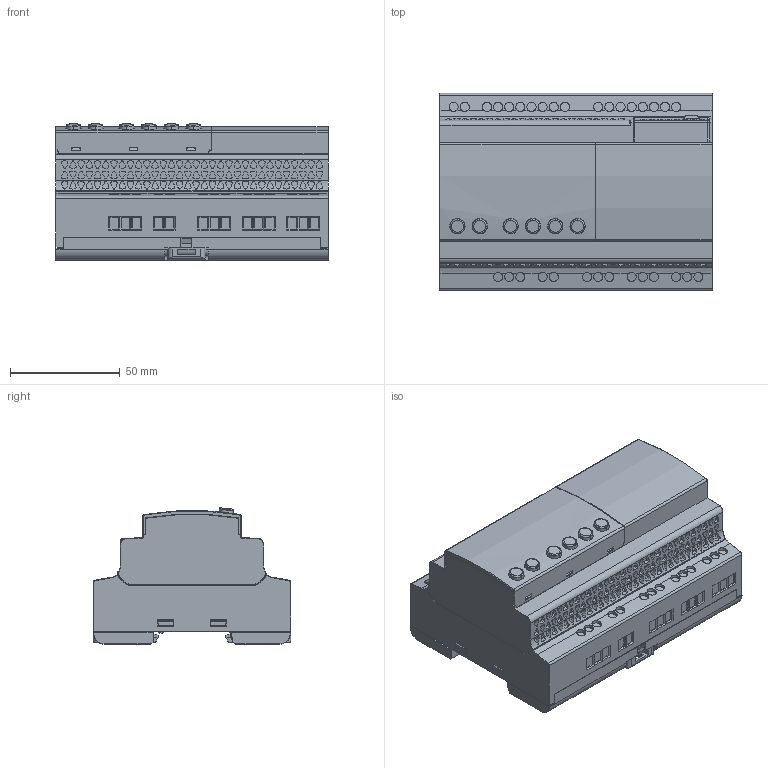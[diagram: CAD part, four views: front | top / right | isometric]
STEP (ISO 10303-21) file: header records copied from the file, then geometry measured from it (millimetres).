
FILE_DESCRIPTION((''),'2;1');
FILE_NAME('ENV_2','2018-04-09T',('lpadby2'),('CROUZET-AUTOMATISMES'),'CREO PARAMETRIC BY PTC INC, 2017170','CREO PARAMETRIC BY PTC INC, 2017170','');
FILE_SCHEMA(('AP203_CONFIGURATION_CONTROLLED_3D_DESIGN_OF_MECHANICAL_PARTS_AND_ASSEMBLIES_MIM_LF { 1 0 10303 403 2 1 2 }'));
Products named in the file (1): ENV_2
Bounding box: 124.6 x 90.1 x 62.29 mm (x, y, z)
Volume: 522812.7 mm3; surface area: 58858.2 mm2
Topology: 1 solids, 1 shells, 2716 faces, 7060 edges, 4594 vertices
Faces by surface type: cylinder 1341, plane 1273, torus 51, bspline 43, cone 6, sphere 2
Entity records: 117944 total; most frequent: CARTESIAN_POINT 28961, ORIENTED_EDGE 14120, DIRECTION 13058, PRESENTATION_STYLE_ASSIGNMENT 7296, STYLED_ITEM 7296, CURVE_STYLE 7066, EDGE_CURVE 7060, VERTEX_POINT 4594
